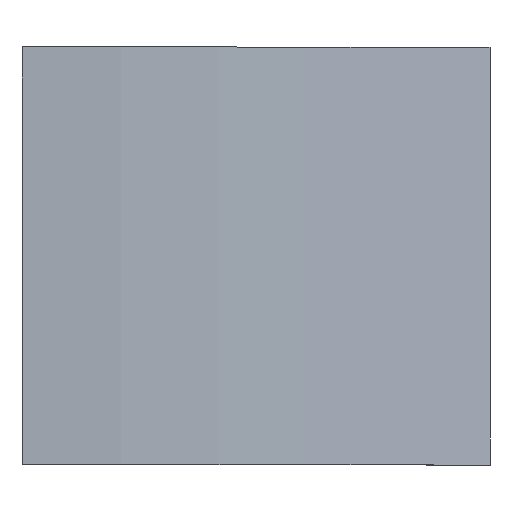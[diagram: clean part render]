
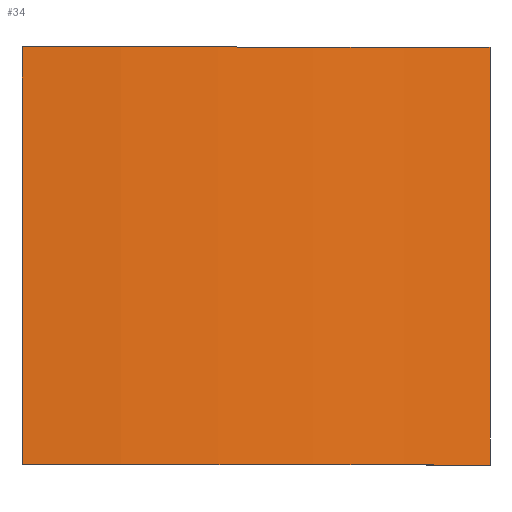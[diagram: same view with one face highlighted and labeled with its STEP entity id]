
A CAD part, top view. The second image highlights one B-rep face of the part: STEP entity #34.
In plain terms, the highlighted cylindrical face has radius 1155 mm (diameter 2310 mm), a partial arc.
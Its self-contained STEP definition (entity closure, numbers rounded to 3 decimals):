
#34 = ADVANCED_FACE( '', ( #65 ), #66, .T. );
#65 = FACE_OUTER_BOUND( '', #90, .T. );
#66 = CYLINDRICAL_SURFACE( '', #91, 1155. );
#90 = EDGE_LOOP( '', ( #119, #120, #121, #122 ) );
#91 = AXIS2_PLACEMENT_3D( '', #123, #124, #125 );
#119 = ORIENTED_EDGE( '', *, *, #161, .T. );
#120 = ORIENTED_EDGE( '', *, *, #157, .F. );
#121 = ORIENTED_EDGE( '', *, *, #162, .F. );
#122 = ORIENTED_EDGE( '', *, *, #151, .T. );
#123 = CARTESIAN_POINT( '', ( -565.227, 500., -968.41 ) );
#124 = DIRECTION( '', ( 0., 1., 0. ) );
#125 = DIRECTION( '', ( 0., 0., -1. ) );
#151 = EDGE_CURVE( '', #169, #170, #171, .T. );
#157 = EDGE_CURVE( '', #179, #181, #182, .T. );
#161 = EDGE_CURVE( '', #170, #181, #187, .T. );
#162 = EDGE_CURVE( '', #169, #179, #188, .T. );
#169 = VERTEX_POINT( '', #195 );
#170 = VERTEX_POINT( '', #196 );
#171 = LINE( '', #197, #198 );
#179 = VERTEX_POINT( '', #209 );
#181 = VERTEX_POINT( '', #212 );
#182 = LINE( '', #213, #214 );
#187 = CIRCLE( '', #221, 1155. );
#188 = CIRCLE( '', #222, 1155. );
#195 = CARTESIAN_POINT( '', ( -504.999, 500., 185.018 ) );
#196 = CARTESIAN_POINT( '', ( -504.999, 0., 185.018 ) );
#197 = CARTESIAN_POINT( '', ( -504.999, 500., 185.018 ) );
#198 = VECTOR( '', #228, 1000. );
#209 = CARTESIAN_POINT( '', ( 55., 500., 5.932 ) );
#212 = CARTESIAN_POINT( '', ( 55., 0., 5.932 ) );
#213 = CARTESIAN_POINT( '', ( 55., 500., 5.932 ) );
#214 = VECTOR( '', #233, 1000. );
#221 = AXIS2_PLACEMENT_3D( '', #236, #237, #238 );
#222 = AXIS2_PLACEMENT_3D( '', #239, #240, #241 );
#228 = DIRECTION( '', ( 0., -1., 0. ) );
#233 = DIRECTION( '', ( 0., -1., 0. ) );
#236 = CARTESIAN_POINT( '', ( -565.227, 0., -968.41 ) );
#237 = DIRECTION( '', ( 0., 1., 0. ) );
#238 = DIRECTION( '', ( 0., 0., 1. ) );
#239 = CARTESIAN_POINT( '', ( -565.227, 500., -968.41 ) );
#240 = DIRECTION( '', ( 0., 1., 0. ) );
#241 = DIRECTION( '', ( 0., 0., 1. ) );
